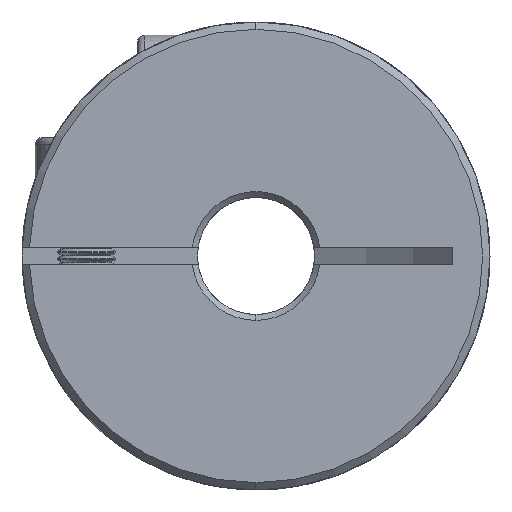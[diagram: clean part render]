
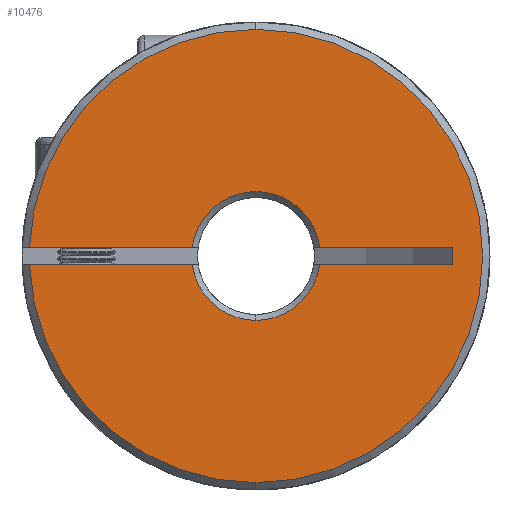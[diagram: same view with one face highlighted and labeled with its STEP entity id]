
A CAD part, front view. The second image highlights one B-rep face of the part: STEP entity #10476.
In plain terms, the highlighted planar face has unit normal (0, -1, 0).
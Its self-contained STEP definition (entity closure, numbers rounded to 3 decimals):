
#21 = VERTEX_POINT ( 'NONE', #4283 ) ;
#42 = CIRCLE ( 'NONE', #10900, 15.5 ) ;
#570 = ORIENTED_EDGE ( 'NONE', *, *, #6041, .T. ) ;
#707 = CIRCLE ( 'NONE', #7155, 4.4 ) ;
#749 = EDGE_LOOP ( 'NONE', ( #3025, #7743, #1923, #5857, #9750, #971, #3637, #1673, #7249, #5880, #570 ) ) ;
#909 = VERTEX_POINT ( 'NONE', #10291 ) ;
#961 = CARTESIAN_POINT ( 'NONE',  ( 13.436, 0., 0.6 ) ) ;
#971 = ORIENTED_EDGE ( 'NONE', *, *, #5916, .T. ) ;
#1340 = VERTEX_POINT ( 'NONE', #6945 ) ;
#1365 = CARTESIAN_POINT ( 'NONE',  ( 13.436, 0., -0.6 ) ) ;
#1371 = CARTESIAN_POINT ( 'NONE',  ( -50., 0., -0.6 ) ) ;
#1673 = ORIENTED_EDGE ( 'NONE', *, *, #6841, .T. ) ;
#1784 = CARTESIAN_POINT ( 'NONE',  ( -50., 0., -18.413 ) ) ;
#1811 = LINE ( 'NONE', #6657, #4521 ) ;
#1841 = LINE ( 'NONE', #2546, #4021 ) ;
#1923 = ORIENTED_EDGE ( 'NONE', *, *, #4770, .T. ) ;
#2025 = DIRECTION ( 'NONE',  ( 0., 1., 0. ) ) ;
#2031 = VERTEX_POINT ( 'NONE', #2341 ) ;
#2193 = LINE ( 'NONE', #6319, #3658 ) ;
#2341 = CARTESIAN_POINT ( 'NONE',  ( -4.359, 0., -0.6 ) ) ;
#2546 = CARTESIAN_POINT ( 'NONE',  ( -50., 0., 0.6 ) ) ;
#3025 = ORIENTED_EDGE ( 'NONE', *, *, #7853, .F. ) ;
#3162 = LINE ( 'NONE', #1371, #7920 ) ;
#3279 = DIRECTION ( 'NONE',  ( 0., 0., 1. ) ) ;
#3601 = EDGE_CURVE ( 'NONE', #909, #8942, #3162, .T. ) ;
#3628 = DIRECTION ( 'NONE',  ( 1., 0., 0. ) ) ;
#3637 = ORIENTED_EDGE ( 'NONE', *, *, #10904, .T. ) ;
#3658 = VECTOR ( 'NONE', #3628, 1000. ) ;
#3942 = CIRCLE ( 'NONE', #8730, 4.4 ) ;
#4021 = VECTOR ( 'NONE', #8635, 1000. ) ;
#4158 = VERTEX_POINT ( 'NONE', #7976 ) ;
#4283 = CARTESIAN_POINT ( 'NONE',  ( 0., 0., -15.5 ) ) ;
#4433 = EDGE_CURVE ( 'NONE', #1340, #8825, #1811, .T. ) ;
#4470 = DIRECTION ( 'NONE',  ( 0., 1., 0. ) ) ;
#4521 = VECTOR ( 'NONE', #7565, 1000. ) ;
#4650 = CIRCLE ( 'NONE', #7786, 15.5 ) ;
#4770 = EDGE_CURVE ( 'NONE', #21, #11077, #4650, .T. ) ;
#4887 = VECTOR ( 'NONE', #8044, 1000. ) ;
#5117 = DIRECTION ( 'NONE',  ( 0., 0., 1. ) ) ;
#5201 = AXIS2_PLACEMENT_3D ( 'NONE', #11164, #10336, #5117 ) ;
#5508 = CARTESIAN_POINT ( 'NONE',  ( 13.436, 0., -0.6 ) ) ;
#5650 = EDGE_CURVE ( 'NONE', #9468, #21, #42, .T. ) ;
#5802 = FACE_OUTER_BOUND ( 'NONE', #749, .T. ) ;
#5857 = ORIENTED_EDGE ( 'NONE', *, *, #8640, .T. ) ;
#5880 = ORIENTED_EDGE ( 'NONE', *, *, #8223, .T. ) ;
#5905 = DIRECTION ( 'NONE',  ( 0., 1., 0. ) ) ;
#5916 = EDGE_CURVE ( 'NONE', #8825, #7123, #7067, .T. ) ;
#5973 = CARTESIAN_POINT ( 'NONE',  ( 0., 0., 0. ) ) ;
#6041 = EDGE_CURVE ( 'NONE', #4158, #2031, #3942, .T. ) ;
#6246 = CARTESIAN_POINT ( 'NONE',  ( 0., 0., 15.5 ) ) ;
#6319 = CARTESIAN_POINT ( 'NONE',  ( -50., 0., -0.6 ) ) ;
#6336 = DIRECTION ( 'NONE',  ( 0., -1., 0. ) ) ;
#6657 = CARTESIAN_POINT ( 'NONE',  ( -50., 0., 0.6 ) ) ;
#6658 = LINE ( 'NONE', #5508, #4887 ) ;
#6740 = CARTESIAN_POINT ( 'NONE',  ( 4.359, 0., 0.6 ) ) ;
#6841 = EDGE_CURVE ( 'NONE', #9781, #8942, #6658, .T. ) ;
#6945 = CARTESIAN_POINT ( 'NONE',  ( -15.488, 0., 0.6 ) ) ;
#6984 = PLANE ( 'NONE',  #9843 ) ;
#7067 = CIRCLE ( 'NONE', #11043, 4.4 ) ;
#7123 = VERTEX_POINT ( 'NONE', #6740 ) ;
#7155 = AXIS2_PLACEMENT_3D ( 'NONE', #8586, #7656, #11175 ) ;
#7249 = ORIENTED_EDGE ( 'NONE', *, *, #3601, .F. ) ;
#7347 = DIRECTION ( 'NONE',  ( 0., 0., 1. ) ) ;
#7565 = DIRECTION ( 'NONE',  ( 1., 0., 0. ) ) ;
#7609 = CIRCLE ( 'NONE', #5201, 15.5 ) ;
#7622 = DIRECTION ( 'NONE',  ( 0., 0., 1. ) ) ;
#7656 = DIRECTION ( 'NONE',  ( 0., 1., 0. ) ) ;
#7743 = ORIENTED_EDGE ( 'NONE', *, *, #5650, .T. ) ;
#7786 = AXIS2_PLACEMENT_3D ( 'NONE', #8944, #6336, #8907 ) ;
#7853 = EDGE_CURVE ( 'NONE', #9468, #2031, #2193, .T. ) ;
#7920 = VECTOR ( 'NONE', #8426, 1000. ) ;
#7976 = CARTESIAN_POINT ( 'NONE',  ( 0., 0., -4.4 ) ) ;
#8044 = DIRECTION ( 'NONE',  ( 0., 0., -1. ) ) ;
#8223 = EDGE_CURVE ( 'NONE', #909, #4158, #707, .T. ) ;
#8426 = DIRECTION ( 'NONE',  ( 1., 0., 0. ) ) ;
#8558 = CARTESIAN_POINT ( 'NONE',  ( 0., 0., 0. ) ) ;
#8586 = CARTESIAN_POINT ( 'NONE',  ( 0., 0., 0. ) ) ;
#8635 = DIRECTION ( 'NONE',  ( 1., 0., 0. ) ) ;
#8640 = EDGE_CURVE ( 'NONE', #11077, #1340, #7609, .T. ) ;
#8730 = AXIS2_PLACEMENT_3D ( 'NONE', #5973, #5905, #7622 ) ;
#8778 = CARTESIAN_POINT ( 'NONE',  ( -4.359, 0., 0.6 ) ) ;
#8825 = VERTEX_POINT ( 'NONE', #8778 ) ;
#8907 = DIRECTION ( 'NONE',  ( 0., 0., 1. ) ) ;
#8942 = VERTEX_POINT ( 'NONE', #1365 ) ;
#8944 = CARTESIAN_POINT ( 'NONE',  ( 0., 0., 0. ) ) ;
#9108 = CARTESIAN_POINT ( 'NONE',  ( -15.488, 0., -0.6 ) ) ;
#9468 = VERTEX_POINT ( 'NONE', #9108 ) ;
#9750 = ORIENTED_EDGE ( 'NONE', *, *, #4433, .T. ) ;
#9781 = VERTEX_POINT ( 'NONE', #961 ) ;
#9831 = CARTESIAN_POINT ( 'NONE',  ( 0., 0., 0. ) ) ;
#9843 = AXIS2_PLACEMENT_3D ( 'NONE', #1784, #4470, #10490 ) ;
#10291 = CARTESIAN_POINT ( 'NONE',  ( 4.359, 0., -0.6 ) ) ;
#10336 = DIRECTION ( 'NONE',  ( 0., -1., 0. ) ) ;
#10476 = ADVANCED_FACE ( 'NONE', ( #5802 ), #6984, .F. ) ;
#10490 = DIRECTION ( 'NONE',  ( 0., 0., 1. ) ) ;
#10900 = AXIS2_PLACEMENT_3D ( 'NONE', #8558, #11021, #3279 ) ;
#10904 = EDGE_CURVE ( 'NONE', #7123, #9781, #1841, .T. ) ;
#11021 = DIRECTION ( 'NONE',  ( 0., -1., 0. ) ) ;
#11043 = AXIS2_PLACEMENT_3D ( 'NONE', #9831, #2025, #7347 ) ;
#11077 = VERTEX_POINT ( 'NONE', #6246 ) ;
#11164 = CARTESIAN_POINT ( 'NONE',  ( 0., 0., 0. ) ) ;
#11175 = DIRECTION ( 'NONE',  ( 0., 0., 1. ) ) ;
